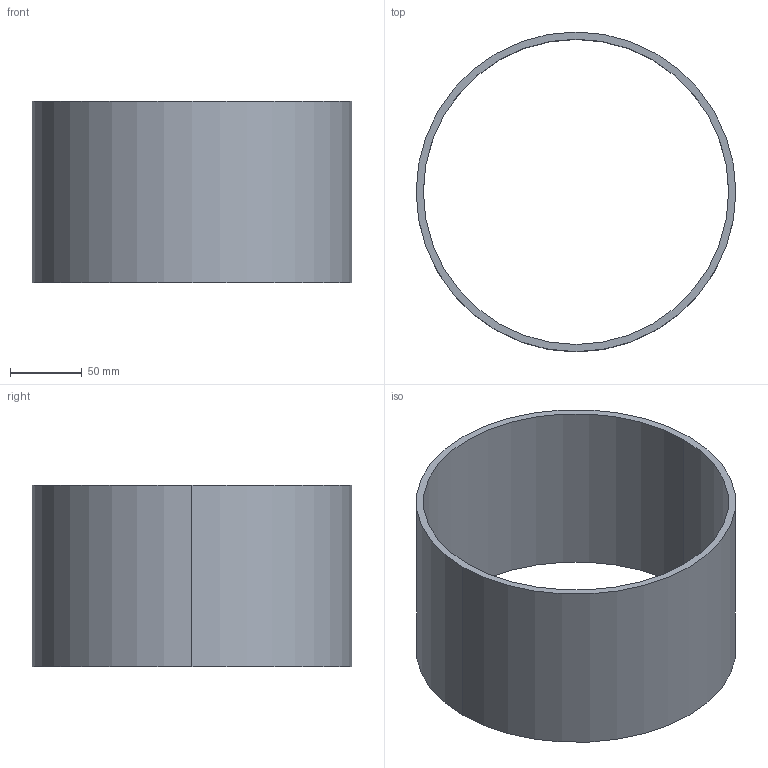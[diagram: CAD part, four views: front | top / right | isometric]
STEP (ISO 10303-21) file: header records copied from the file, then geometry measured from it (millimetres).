
FILE_DESCRIPTION(('CATIA V5 STEP Exchange'),'2;1');
FILE_NAME('C:\_Andres\UNIVERSIDAD\IQS\ASIGNATURAS\DAO\EXF\EXF-15161c\1original\Gual_Moseguí_Ej07-tabla_v11.stp','2016-03-04T21:16:34+00:00',('none'),('none'),'CATIA Version 5 Release 20 SP 1 (IN-10)','CATIA V5 STEP AP203','none');
FILE_SCHEMA(('CONFIG_CONTROL_DESIGN'));
Length unit declared in the file: millimetre
Products named in the file (1): Gual_Moseguí_Ej07-tabla_v11
Bounding box: 222 x 222 x 126 mm (x, y, z)
Volume: 429487.1 mm3; surface area: 178612.1 mm2
Topology: 1 solids, 1 shells, 6 faces, 13 edges, 10 vertices
Faces by surface type: cylinder 4, plane 2
Entity records: 208 total; most frequent: CARTESIAN_POINT 29, ORIENTED_EDGE 24, DIRECTION 23, AXIS2_PLACEMENT_3D 14, EDGE_CURVE 12, CIRCLE 8, EDGE_LOOP 8, VERTEX_POINT 8
